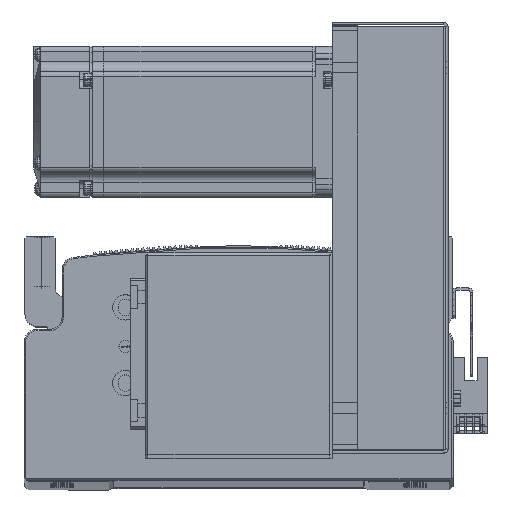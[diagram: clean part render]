
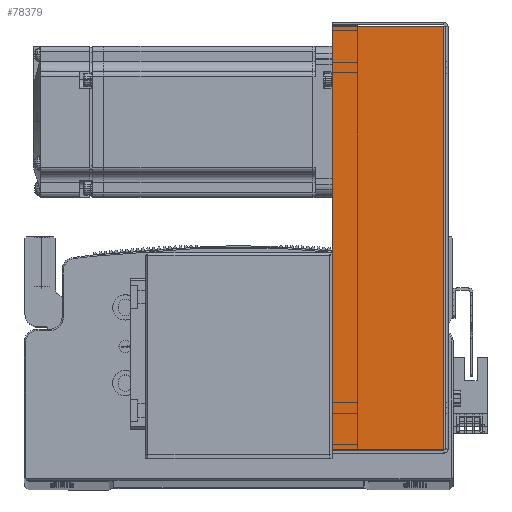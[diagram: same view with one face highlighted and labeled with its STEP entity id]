
A CAD part, top view. The second image highlights one B-rep face of the part: STEP entity #78379.
In plain terms, the highlighted planar face has unit normal (0, 0, 1).
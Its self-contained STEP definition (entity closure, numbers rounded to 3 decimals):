
#2650 = EDGE_CURVE ( 'NONE', #69483, #69383, #17573, .T. ) ;
#2664 = EDGE_CURVE ( 'NONE', #69455, #69483, #17521, .T. ) ;
#2744 = EDGE_CURVE ( 'NONE', #69455, #69401, #17736, .T. ) ;
#2792 = EDGE_CURVE ( 'NONE', #69401, #69383, #17919, .T. ) ;
#17521 = LINE ( 'NONE', #70478, #17604 ) ;
#17573 = LINE ( 'NONE', #70492, #17580 ) ;
#17580 = VECTOR ( 'NONE', #70491, 1000. ) ;
#17604 = VECTOR ( 'NONE', #70455, 1000. ) ;
#17695 = VECTOR ( 'NONE', #70602, 1000. ) ;
#17736 = LINE ( 'NONE', #70599, #17695 ) ;
#17919 = LINE ( 'NONE', #70737, #17939 ) ;
#17939 = VECTOR ( 'NONE', #70727, 1000. ) ;
#23101 = ORIENTED_EDGE ( 'NONE', *, *, #2650, .T. ) ;
#23117 = ORIENTED_EDGE ( 'NONE', *, *, #2792, .F. ) ;
#23128 = ORIENTED_EDGE ( 'NONE', *, *, #2744, .F. ) ;
#23161 = ORIENTED_EDGE ( 'NONE', *, *, #2664, .T. ) ;
#36432 = CARTESIAN_POINT ( 'NONE',  ( 0., 0., 40.5 ) ) ;
#36433 = DIRECTION ( 'NONE',  ( -1., 0., 0. ) ) ;
#36450 = PLANE ( 'NONE',  #74869 ) ;
#36458 = DIRECTION ( 'NONE',  ( 0., 0., -1. ) ) ;
#45036 = CARTESIAN_POINT ( 'NONE',  ( -83.793, 45., 40.5 ) ) ;
#45205 = CARTESIAN_POINT ( 'NONE',  ( 83.793, 0.737, 40.5 ) ) ;
#45348 = CARTESIAN_POINT ( 'NONE',  ( -83.793, 0.737, 40.5 ) ) ;
#45519 = CARTESIAN_POINT ( 'NONE',  ( 83.793, 45., 40.5 ) ) ;
#45887 = FACE_OUTER_BOUND ( 'NONE', #73249, .T. ) ;
#69383 = VERTEX_POINT ( 'NONE', #45036 ) ;
#69401 = VERTEX_POINT ( 'NONE', #45348 ) ;
#69455 = VERTEX_POINT ( 'NONE', #45205 ) ;
#69483 = VERTEX_POINT ( 'NONE', #45519 ) ;
#70455 = DIRECTION ( 'NONE',  ( 0., 1., 0. ) ) ;
#70478 = CARTESIAN_POINT ( 'NONE',  ( 83.793, 0., 40.5 ) ) ;
#70491 = DIRECTION ( 'NONE',  ( -1., 0., 0. ) ) ;
#70492 = CARTESIAN_POINT ( 'NONE',  ( -84.5, 45., 40.5 ) ) ;
#70599 = CARTESIAN_POINT ( 'NONE',  ( 0., 0.737, 40.5 ) ) ;
#70602 = DIRECTION ( 'NONE',  ( -1., 0., 0. ) ) ;
#70727 = DIRECTION ( 'NONE',  ( 0., 1., 0. ) ) ;
#70737 = CARTESIAN_POINT ( 'NONE',  ( -83.793, 0., 40.5 ) ) ;
#73249 = EDGE_LOOP ( 'NONE', ( #23128, #23161, #23101, #23117 ) ) ;
#74869 = AXIS2_PLACEMENT_3D ( 'NONE', #36432, #36458, #36433 ) ;
#78379 = ADVANCED_FACE ( 'NONE', ( #45887 ), #36450, .F. ) ;
